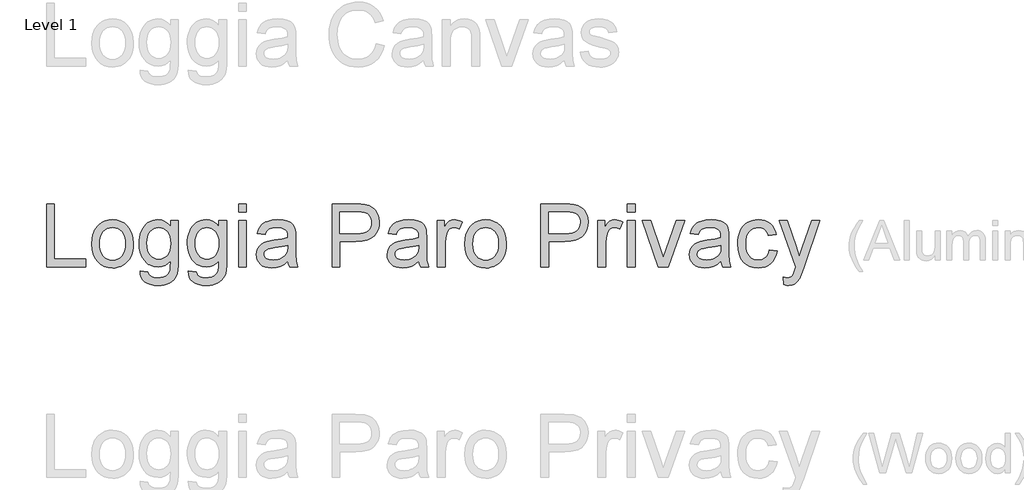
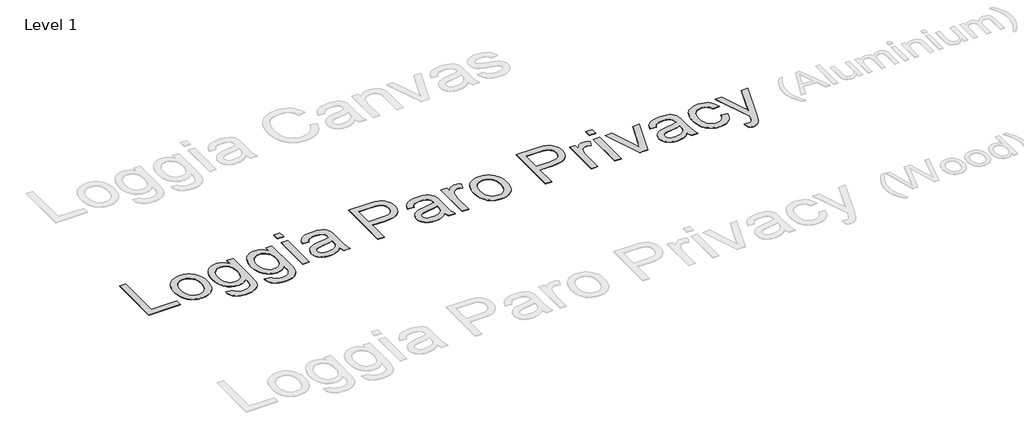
# One storey, part 10 of 80: 1 proxy.
"""IFC4 building model written with IfcOpenShell, lengths in millimetres."""

from ifc_helpers import new_model, si_unit, origin, origin_with_axes, place, context, project, spatial, polyline, outline, extrude, element, save

model = new_model("IFC4")

# Units and contexts
model_context = context("Model", 3, world=origin())
ifc_project = project(units=[si_unit("LENGTHUNIT", "METRE", prefix="MILLI")], contexts=[model_context])

# Site, building, storey
site = spatial("IfcSite", under=ifc_project)
building = spatial("IfcBuilding", under=site)
storey = spatial("IfcBuildingStorey", under=building, Name="Level 1", Elevation=0.0)

# Proxy
placement = place(None, origin())
element("IfcBuildingElementProxy", 1, Name="800mm Arial", ObjectType="800mm Arial", at=placement, inside=storey, context=model_context, shape_type="SweptSolid", body=[
    extrude(outline(polyline([(369965.6331768, -61669.7962224), (369965.6331768, -60870.407524), (370065.556764, -60870.407524), (370065.556764, -61569.8726351), (370465.2511132, -61569.8726351), (370465.2511132, -61669.7962224), (369965.6331768, -61669.7962224)])), origin_with_axes(), (0.0, 0.0, 1.0), 5.0),
    extrude(outline(polyline([(370540.1938037, -61376.2706847), (370545.5973864, -61300.2423986), (370552.3518647, -61266.1711632), (370561.8081343, -61234.728533), (370573.9661953, -61205.9145078), (370588.8260477, -61179.7290878), (370606.3876913, -61156.1722728), (370626.6511263, -61135.244063), (370664.7323567, -61106.8112161), (370706.7656431, -61086.5020397), (370752.7509853, -61074.3165339), (370802.6883836, -61070.2546986), (370857.8159047, -61075.2008674), (370907.6618201, -61090.0393737), (370952.22613, -61114.7702176), (370991.5088342, -61149.3933991), (371023.5704979, -61192.7379386), (371046.4716863, -61243.6328565), (371060.2123993, -61302.078153), (371064.792637, -61368.0738279), (371062.7678182, -61421.5607579), (371056.6933618, -61469.0220223), (371046.5692679, -61510.4576212), (371032.3955364, -61545.8675545), (371014.349034, -61576.4532961), (370992.6066275, -61603.4163198), (370967.1683168, -61626.7566255), (370938.0341019, -61646.4742132), (370906.3383693, -61662.1421634), (370873.2155054, -61673.3335564), (370838.6655101, -61680.0483922), (370802.6883836, -61682.2866708), (370746.7558141, -61677.3587986), (370696.4463859, -61662.5751819), (370651.760099, -61637.9358208), (370612.6969535, -61603.4407152), (370580.9768254, -61559.6753549), (370558.3195911, -61507.2252298), (370544.7252505, -61446.0903397), (370540.1938037, -61376.2706847)]), holes=[polyline([(370640.117391, -61376.0755214), (370643.0082467, -61424.5430964), (370651.6808139, -61466.5092954), (370666.1350926, -61501.9741184), (370686.3710828, -61530.9375654), (370710.9860485, -61553.4362296), (370738.5772539, -61569.506704), (370769.1446989, -61579.1489886), (370802.6883836, -61582.3630835), (370836.0613004, -61579.130692), (370866.5067684, -61569.4335177), (370894.0247876, -61553.2715606), (370918.6153579, -61530.6448205), (370938.8513481, -61501.3947275), (370953.3056267, -61465.3627113), (370961.9781939, -61422.5487719), (370964.8690497, -61372.9529093), (370961.9598974, -61326.022245), (370953.2324405, -61285.1538393), (370938.6866791, -61250.3476923), (370918.322613, -61221.603804), (370893.6405599, -61199.1051398), (370866.1408373, -61183.0346654), (370835.8234452, -61173.3923808), (370802.6883836, -61170.1782859), (370769.1446989, -61173.3801831), (370738.5772539, -61182.9858746), (370710.9860485, -61198.9953605), (370686.3710828, -61221.4086407), (370666.1350926, -61250.2867038), (370651.6808139, -61285.6905383), (370643.0082467, -61327.6201442), (370640.117391, -61376.0755214)])]), origin_with_axes(), (0.0, 0.0, 1.0), 5.0),
    extrude(outline(polyline([(371152.2257759, -61719.758016), (371252.1493631, -61732.2484644), (371256.3697686, -61749.0812953), (371263.1760871, -61763.4745855), (371272.5683189, -61775.4283349), (371284.5464637, -61784.9425437), (371303.9286146, -61794.6763111), (371326.5553547, -61801.6290021), (371381.5426022, -61807.1911549), (371412.7443278, -61805.6176511), (371440.1891607, -61800.8971399), (371463.877101, -61793.0296211), (371483.8081485, -61782.0150948), (371500.3970253, -61768.1585036), (371514.0584533, -61751.7647901), (371524.7924324, -61732.8339542), (371532.5989626, -61711.365996), (371538.014743, -61668.3812888), (371539.4296766, -61594.8535319), (371506.1787368, -61627.640959), (371469.0733227, -61651.0605497), (371428.1134342, -61665.1123042), (371383.2990715, -61669.7962224), (371328.5130861, -61664.3438489), (371280.2772675, -61647.9867285), (371258.6156707, -61635.7188881), (371238.5916157, -61620.7248611), (371203.4561307, -61582.5582467), (371175.5782793, -61536.7680677), (371155.6655283, -61486.6355062), (371143.7178776, -61432.1605623), (371139.7353274, -61373.3432358), (371141.522291, -61332.194283), (371146.8831817, -61292.6676247), (371155.8179995, -61254.763261), (371168.3267445, -61218.4811919), (371184.2203522, -61185.0289899), (371203.3097582, -61155.6142279), (371225.5949626, -61130.2369057), (371251.0759652, -61108.8970234), (371279.3441432, -61091.9910063), (371309.9908733, -61079.9152798), (371343.0161556, -61072.6698439), (371378.4199901, -61070.2546986), (371425.1493923, -61075.7192698), (371467.5608074, -61092.1129833), (371505.6542356, -61119.4358392), (371539.4296766, -61157.6878375), (371539.4296766, -61082.745147), (371639.3532639, -61082.745147), (371639.3532639, -61589.584124), (371637.6455854, -61653.0914674), (371632.5225499, -61706.6088916), (371623.9841575, -61750.1363966), (371612.030408, -61783.6739825), (371596.3746555, -61810.7223901), (371576.730254, -61834.7823603), (371553.0972034, -61855.8538931), (371525.4755038, -61873.9369886), (371494.1457023, -61888.4522558), (371459.3883461, -61898.8203038), (371421.2034352, -61905.0411326), (371379.5909696, -61907.1147422), (371330.6354865, -61904.1933922), (371286.6200733, -61895.4293422), (371247.5447301, -61880.8225922), (371213.4094567, -61860.3731423), (371185.8365479, -61834.0565969), (371166.4482982, -61801.8485607), (371155.2447075, -61763.7490338), (371152.2257759, -61719.758016)]), holes=[polyline([(371239.6589147, -61366.5125219), (371242.324113, -61415.91932), (371250.3197076, -61458.1660662), (371263.6456987, -61493.2527604), (371282.3020863, -61521.1794026), (371304.983716, -61542.4826918), (371330.3854336, -61557.699327), (371358.5072391, -61566.829308), (371389.3491324, -61569.8726351), (371419.8860832, -61566.8476046), (371447.8737139, -61557.7725132), (371473.3120246, -61542.6473608), (371496.2010153, -61521.4721475), (371515.1135546, -61493.8199536), (371528.6225113, -61459.2638595), (371536.7278853, -61417.8038652), (371539.4296766, -61369.4399707), (371536.6486002, -61323.0947962), (371528.305371, -61282.8118803), (371514.399989, -61248.591223), (371494.9324542, -61220.4328244), (371471.5494565, -61198.4464638), (371445.897686, -61182.7419205), (371417.9771426, -61173.3191946), (371387.7878264, -61170.1782859), (371358.1047148, -61173.2704037), (371330.7269693, -61182.5467573), (371305.6545897, -61198.0073465), (371282.887576, -61219.6521714), (371263.9750367, -61247.3836504), (371250.4660801, -61281.1042018), (371242.3607061, -61320.8138256), (371239.6589147, -61366.5125219)])]), origin_with_axes(), (0.0, 0.0, 1.0), 5.0),
    extrude(outline(polyline([(371764.257748, -61719.758016), (371864.1813353, -61732.2484644), (371868.4017407, -61749.0812953), (371875.2080593, -61763.4745855), (371884.600291, -61775.4283349), (371896.5784359, -61784.9425437), (371915.9605868, -61794.6763111), (371938.5873268, -61801.6290021), (371993.5745743, -61807.1911549), (372024.7763, -61805.6176511), (372052.2211329, -61800.8971399), (372075.9090731, -61793.0296211), (372095.8401207, -61782.0150948), (372112.4289975, -61768.1585036), (372126.0904254, -61751.7647901), (372136.8244046, -61732.8339542), (372144.6309348, -61711.365996), (372150.0467152, -61668.3812888), (372151.4616488, -61594.8535319), (372118.210709, -61627.640959), (372081.1052948, -61651.0605497), (372040.1454064, -61665.1123042), (371995.3310436, -61669.7962224), (371940.5450582, -61664.3438489), (371892.3092397, -61647.9867285), (371870.6476429, -61635.7188881), (371850.6235878, -61620.7248611), (371815.4881028, -61582.5582467), (371787.6102514, -61536.7680677), (371767.6975004, -61486.6355062), (371755.7498498, -61432.1605623), (371751.7672996, -61373.3432358), (371753.5542632, -61332.194283), (371758.9151539, -61292.6676247), (371767.8499717, -61254.763261), (371780.3587167, -61218.4811919), (371796.2523244, -61185.0289899), (371815.3417304, -61155.6142279), (371837.6269347, -61130.2369057), (371863.1079374, -61108.8970234), (371891.3761153, -61091.9910063), (371922.0228454, -61079.9152798), (371955.0481277, -61072.6698439), (371990.4519622, -61070.2546986), (372037.1813644, -61075.7192698), (372079.5927796, -61092.1129833), (372117.6862077, -61119.4358392), (372151.4616488, -61157.6878375), (372151.4616488, -61082.745147), (372251.3852361, -61082.745147), (372251.3852361, -61589.584124), (372249.6775576, -61653.0914674), (372244.5545221, -61706.6088916), (372236.0161296, -61750.1363966), (372224.0623802, -61783.6739825), (372208.4066277, -61810.7223901), (372188.7622262, -61834.7823603), (372165.1291756, -61855.8538931), (372137.5074759, -61873.9369886), (372106.1776744, -61888.4522558), (372071.4203182, -61898.8203038), (372033.2354073, -61905.0411326), (371991.6229418, -61907.1147422), (371942.6674587, -61904.1933922), (371898.6520455, -61895.4293422), (371859.5767022, -61880.8225922), (371825.4414289, -61860.3731423), (371797.8685201, -61834.0565969), (371778.4802703, -61801.8485607), (371767.2766796, -61763.7490338), (371764.257748, -61719.758016)]), holes=[polyline([(371851.6908869, -61366.5125219), (371854.3560851, -61415.91932), (371862.3516798, -61458.1660662), (371875.6776709, -61493.2527604), (371894.3340584, -61521.1794026), (371917.0156881, -61542.4826918), (371942.4174057, -61557.699327), (371970.5392112, -61566.829308), (372001.3811046, -61569.8726351), (372031.9180554, -61566.8476046), (372059.9056861, -61557.7725132), (372085.3439968, -61542.6473608), (372108.2329875, -61521.4721475), (372127.1455268, -61493.8199536), (372140.6544835, -61459.2638595), (372148.7598575, -61417.8038652), (372151.4616488, -61369.4399707), (372148.6805724, -61323.0947962), (372140.3373432, -61282.8118803), (372126.4319611, -61248.591223), (372106.9644263, -61220.4328244), (372083.5814287, -61198.4464638), (372057.9296581, -61182.7419205), (372030.0091148, -61173.3191946), (371999.8197985, -61170.1782859), (371970.136687, -61173.2704037), (371942.7589414, -61182.5467573), (371917.6865618, -61198.0073465), (371894.9195482, -61219.6521714), (371876.0070089, -61247.3836504), (371862.4980522, -61281.1042018), (371854.3926782, -61320.8138256), (371851.6908869, -61366.5125219)])]), origin_with_axes(), (0.0, 0.0, 1.0), 5.0),
    extrude(outline(polyline([(372401.270617, -61669.7962224), (372401.270617, -61082.745147), (372501.1942043, -61082.745147), (372501.1942043, -61669.7962224), (372401.270617, -61669.7962224)])), origin_with_axes(), (0.0, 0.0, 1.0), 5.0),
    extrude(outline(polyline([(372401.270617, -60970.3311113), (372401.270617, -60870.407524), (372501.1942043, -60870.407524), (372501.1942043, -60970.3311113), (372401.270617, -60970.3311113)])), origin_with_axes(), (0.0, 0.0, 1.0), 5.0),
    extrude(outline(polyline([(373025.7930376, -61594.8535319), (372978.051226, -61635.7890249), (372953.6497201, -61650.9507704), (372928.8944808, -61662.5751819), (372877.2006132, -61677.3587986), (372821.8474346, -61682.2866708), (372777.356311, -61679.3226288), (372738.3419563, -61670.4305029), (372704.8043704, -61655.6102932), (372676.7435535, -61634.8619995), (372654.586425, -61609.5029738), (372638.7599047, -61580.8505682), (372629.2639925, -61548.9047827), (372626.0986884, -61513.6656172), (372630.8801882, -61472.242216), (372645.2246876, -61434.6244984), (372667.3513218, -61402.4225611), (372695.4792261, -61377.246501), (372728.5350026, -61358.2180835), (372765.4452535, -61344.4590739), (372851.9025761, -61329.4315031), (372954.0705409, -61313.6232794), (373025.2075478, -61295.08277), (373025.7930376, -61272.8341588), (373024.0731614, -61248.6095196), (373018.9135328, -61228.2393547), (373010.3141518, -61211.7236641), (372998.2750184, -61199.0624479), (372977.4657362, -61186.425627), (372952.1189083, -61177.3993264), (372922.2345347, -61171.983546), (372887.8126153, -61170.1782859), (372828.2878221, -61174.9841811), (372805.2585578, -61180.9915501), (372786.7180485, -61189.4018667), (372771.4831168, -61200.8738068), (372758.3705855, -61216.0660466), (372747.3804546, -61234.9785859), (372738.5127241, -61257.6114248), (372638.5891368, -61245.1209764), (372655.9342713, -61190.4752646), (372667.8087356, -61167.5435819), (372681.8177981, -61147.5393482), (372698.5652451, -61130.060039), (372718.6548628, -61114.7031303), (372742.0866513, -61101.4686219), (372768.8606105, -61090.356514), (372830.2638501, -61075.2801525), (372900.6933902, -61070.2546986), (372968.2442724, -61074.6946627), (373021.7921908, -61088.0145549), (373062.1665895, -61108.0431841), (373090.1969122, -61132.609359), (373108.7862124, -61162.9816408), (373120.8375435, -61200.4285906), (373124.4968545, -61234.972487), (373125.7166249, -61287.8617295), (373125.7166249, -61412.1807239), (373126.9851861, -61520.4719358), (373130.7908696, -61585.7784405), (373138.3046549, -61628.6899615), (373150.6975217, -61669.7962224), (373050.7739344, -61669.7962224), (373034.7705474, -61635.0571627), (373025.7930376, -61594.8535319)]), holes=[polyline([(373025.7930376, -61395.0063573), (372958.6568774, -61411.6440249), (372864.5881878, -61425.6469886), (372812.7479478, -61433.3071464), (372778.6187733, -61441.8455389), (372756.2481851, -61452.9210537), (372739.6837037, -61468.1925785), (372729.4376327, -61486.4891338), (372726.0222757, -61506.63974), (372727.8824255, -61522.1674166), (372733.4628749, -61536.3533458), (372742.7636238, -61549.1975276), (372755.7846723, -61560.699962), (372772.4040434, -61570.1775777), (372792.4997599, -61576.9473031), (372843.1202296, -61582.3630835), (372896.7901251, -61576.3862088), (372921.2831138, -61568.9151153), (372944.2147964, -61558.4555846), (372982.6619579, -61532.0353587), (373009.3993241, -61500.589679), (373021.2554919, -61468.1925785), (373025.2075478, -61423.3050295), (373025.7930376, -61395.0063573)])]), origin_with_axes(), (0.0, 0.0, 1.0), 5.0),
    extrude(outline(polyline([(373587.8632161, -61669.7962224), (373587.8632161, -60870.407524), (373884.1210394, -60870.407524), (373953.1112505, -60872.3103658), (374003.5609523, -60878.018891), (374056.8161259, -60892.2414133), (374100.6546724, -60915.3926546), (374119.2622691, -60930.5787955), (374135.9548264, -60948.5216174), (374163.5948226, -60992.6773042), (374174.0116614, -61018.1156149), (374181.4522606, -61044.7614982), (374187.4047399, -61101.6759829), (374183.3855966, -61150.7473442), (374171.3281666, -61195.8910449), (374151.2324501, -61237.1070852), (374123.0984469, -61274.3954648), (374105.4041532, -61290.9538474), (374084.4744187, -61305.3044456), (374060.3092433, -61317.4472594), (374032.908627, -61327.382289), (373968.4010719, -61340.628995), (373890.9517534, -61345.0445637), (373687.7868034, -61345.0445637), (373687.7868034, -61669.7962224), (373587.8632161, -61669.7962224)]), holes=[polyline([(373687.7868034, -61245.1209764), (373896.806651, -61245.1209764), (373944.8656029, -61242.8278081), (373985.4107695, -61235.9483033), (374018.4421506, -61224.482462), (374043.9597464, -61208.4302842), (374063.0003616, -61188.2186894), (374076.600801, -61164.2745974), (374084.7610647, -61136.5980081), (374087.4811526, -61105.1889215), (374085.8771546, -61081.8669124), (374081.0651605, -61060.3013725), (374073.0451705, -61040.492302), (374061.8171844, -61022.4397008), (374047.9788897, -61006.7290586), (374032.127974, -60993.9458653), (374014.2644372, -60984.0901209), (373994.3882793, -60977.1618253), (373955.8435361, -60972.0387898), (373894.464692, -60970.3311113), (373687.7868034, -60970.3311113), (373687.7868034, -61245.1209764)])]), origin_with_axes(), (0.0, 0.0, 1.0), 5.0),
    extrude(outline(polyline([(374687.0226763, -61594.8535319), (374639.2808647, -61635.7890249), (374614.8793588, -61650.9507704), (374590.1241195, -61662.5751819), (374538.430252, -61677.3587986), (374483.0770734, -61682.2866708), (374438.5859498, -61679.3226288), (374399.571595, -61670.4305029), (374366.0340092, -61655.6102932), (374337.9731922, -61634.8619995), (374315.8160638, -61609.5029738), (374299.9895434, -61580.8505682), (374290.4936312, -61548.9047827), (374287.3283272, -61513.6656172), (374292.1098269, -61472.242216), (374306.4543263, -61434.6244984), (374328.5809605, -61402.4225611), (374356.7088648, -61377.246501), (374389.7646414, -61358.2180835), (374426.6748923, -61344.4590739), (374513.1322149, -61329.4315031), (374615.3001796, -61313.6232794), (374686.4371866, -61295.08277), (374687.0226763, -61272.8341588), (374685.3028001, -61248.6095196), (374680.1431715, -61228.2393547), (374671.5437906, -61211.7236641), (374659.5046572, -61199.0624479), (374638.695375, -61186.425627), (374613.348547, -61177.3993264), (374583.4641734, -61171.983546), (374549.042254, -61170.1782859), (374489.5174608, -61174.9841811), (374466.4881966, -61180.9915501), (374447.9476872, -61189.4018667), (374432.7127555, -61200.8738068), (374419.6002242, -61216.0660466), (374408.6100933, -61234.9785859), (374399.7423629, -61257.6114248), (374299.8187756, -61245.1209764), (374317.16391, -61190.4752646), (374329.0383744, -61167.5435819), (374343.0474369, -61147.5393482), (374359.7948838, -61130.060039), (374379.8845015, -61114.7031303), (374403.31629, -61101.4686219), (374430.0902492, -61090.356514), (374491.4934888, -61075.2801525), (374561.923029, -61070.2546986), (374629.4739111, -61074.6946627), (374683.0218296, -61088.0145549), (374723.3962283, -61108.0431841), (374751.426551, -61132.609359), (374770.0158511, -61162.9816408), (374782.0671822, -61200.4285906), (374785.7264933, -61234.972487), (374786.9462636, -61287.8617295), (374786.9462636, -61412.1807239), (374788.2148248, -61520.4719358), (374792.0205083, -61585.7784405), (374799.5342937, -61628.6899615), (374811.9271605, -61669.7962224), (374712.0035732, -61669.7962224), (374696.0001861, -61635.0571627), (374687.0226763, -61594.8535319)]), holes=[polyline([(374687.0226763, -61395.0063573), (374619.8865161, -61411.6440249), (374525.8178265, -61425.6469886), (374473.9775865, -61433.3071464), (374439.8484121, -61441.8455389), (374417.4778238, -61452.9210537), (374400.9133424, -61468.1925785), (374390.6672714, -61486.4891338), (374387.2519145, -61506.63974), (374389.1120642, -61522.1674166), (374394.6925136, -61536.3533458), (374403.9932626, -61549.1975276), (374417.0143111, -61560.699962), (374433.6336821, -61570.1775777), (374453.7293987, -61576.9473031), (374504.3498683, -61582.3630835), (374558.0197638, -61576.3862088), (374582.5127525, -61568.9151153), (374605.4444351, -61558.4555846), (374643.8915967, -61532.0353587), (374670.6289628, -61500.589679), (374682.4851306, -61468.1925785), (374686.4371866, -61423.3050295), (374687.0226763, -61395.0063573)])]), origin_with_axes(), (0.0, 0.0, 1.0), 5.0),
    extrude(outline(polyline([(374924.3411962, -61669.7962224), (374924.3411962, -61082.745147), (375011.774335, -61082.745147), (375011.774335, -61169.5927961), (375044.073854, -61119.240676), (375059.2721926, -61101.8223553), (375073.8362506, -61089.575861), (375103.6962288, -61075.0849892), (375136.2884926, -61070.2546986), (375161.0742262, -61072.1819358), (375186.055123, -61077.9636472), (375211.2311831, -61087.599833), (375236.6024064, -61101.0904931), (375203.2294896, -61190.6704278), (375168.1001034, -61175.3013214), (375132.9707173, -61170.1782859), (375103.1351345, -61175.1061581), (375076.4709545, -61189.8897748), (375054.9298101, -61213.4069472), (375040.4633337, -61244.5354866), (375028.314421, -61300.3521779), (375024.2647835, -61361.2431139), (375024.2647835, -61669.7962224), (374924.3411962, -61669.7962224)])), origin_with_axes(), (0.0, 0.0, 1.0), 5.0),
    extrude(outline(polyline([(375274.0737517, -61376.2706847), (375279.4773343, -61300.2423986), (375286.2318127, -61266.1711632), (375295.6880823, -61234.728533), (375307.8461433, -61205.9145078), (375322.7059956, -61179.7290878), (375340.2676393, -61156.1722728), (375360.5310743, -61135.244063), (375398.6123047, -61106.8112161), (375440.645591, -61086.5020397), (375486.6309333, -61074.3165339), (375536.5683316, -61070.2546986), (375591.6958527, -61075.2008674), (375641.5417681, -61090.0393737), (375686.106078, -61114.7702176), (375725.3887822, -61149.3933991), (375757.4504459, -61192.7379386), (375780.3516343, -61243.6328565), (375794.0923473, -61302.078153), (375798.672585, -61368.0738279), (375796.6477662, -61421.5607579), (375790.5733098, -61469.0220223), (375780.4492159, -61510.4576212), (375766.2754844, -61545.8675545), (375748.228982, -61576.4532961), (375726.4865755, -61603.4163198), (375701.0482648, -61626.7566255), (375671.9140499, -61646.4742132), (375640.2183173, -61662.1421634), (375607.0954534, -61673.3335564), (375572.5454581, -61680.0483922), (375536.5683316, -61682.2866708), (375480.6357621, -61677.3587986), (375430.3263339, -61662.5751819), (375385.640047, -61637.9358208), (375346.5769014, -61603.4407152), (375314.8567734, -61559.6753549), (375292.1995391, -61507.2252298), (375278.6051985, -61446.0903397), (375274.0737517, -61376.2706847)]), holes=[polyline([(375373.997339, -61376.0755214), (375376.8881947, -61424.5430964), (375385.5607619, -61466.5092954), (375400.0150406, -61501.9741184), (375420.2510307, -61530.9375654), (375444.8659965, -61553.4362296), (375472.4572018, -61569.506704), (375503.0246469, -61579.1489886), (375536.5683316, -61582.3630835), (375569.9412484, -61579.130692), (375600.3867164, -61569.4335177), (375627.9047356, -61553.2715606), (375652.4953059, -61530.6448205), (375672.7312961, -61501.3947275), (375687.1855747, -61465.3627113), (375695.8581419, -61422.5487719), (375698.7489977, -61372.9529093), (375695.8398454, -61326.022245), (375687.1123885, -61285.1538393), (375672.5666271, -61250.3476923), (375652.202561, -61221.603804), (375627.5205079, -61199.1051398), (375600.0207853, -61183.0346654), (375569.7033932, -61173.3923808), (375536.5683316, -61170.1782859), (375503.0246469, -61173.3801831), (375472.4572018, -61182.9858746), (375444.8659965, -61198.9953605), (375420.2510307, -61221.4086407), (375400.0150406, -61250.2867038), (375385.5607619, -61285.6905383), (375376.8881947, -61327.6201442), (375373.997339, -61376.0755214)])]), origin_with_axes(), (0.0, 0.0, 1.0), 5.0),
    extrude(outline(polyline([(376235.8382794, -61669.7962224), (376235.8382794, -60870.407524), (376532.0961026, -60870.407524), (376601.0863138, -60872.3103658), (376651.5360156, -60878.018891), (376704.7911892, -60892.2414133), (376748.6297356, -60915.3926546), (376767.2373324, -60930.5787955), (376783.9298897, -60948.5216174), (376811.5698858, -60992.6773042), (376821.9867247, -61018.1156149), (376829.4273238, -61044.7614982), (376835.3798031, -61101.6759829), (376831.3606598, -61150.7473442), (376819.3032299, -61195.8910449), (376799.2075133, -61237.1070852), (376771.0735101, -61274.3954648), (376753.3792165, -61290.9538474), (376732.4494819, -61305.3044456), (376708.2843065, -61317.4472594), (376680.8836903, -61327.382289), (376616.3761352, -61340.628995), (376538.9268166, -61345.0445637), (376335.7618667, -61345.0445637), (376335.7618667, -61669.7962224), (376235.8382794, -61669.7962224)]), holes=[polyline([(376335.7618667, -61245.1209764), (376544.7817143, -61245.1209764), (376592.8406662, -61242.8278081), (376633.3858327, -61235.9483033), (376666.4172139, -61224.482462), (376691.9348097, -61208.4302842), (376710.9754249, -61188.2186894), (376724.5758643, -61164.2745974), (376732.736128, -61136.5980081), (376735.4562158, -61105.1889215), (376733.8522178, -61081.8669124), (376729.0402238, -61060.3013725), (376721.0202337, -61040.492302), (376709.7922476, -61022.4397008), (376695.953953, -61006.7290586), (376680.1030372, -60993.9458653), (376662.2395004, -60984.0901209), (376642.3633425, -60977.1618253), (376603.8185994, -60972.0387898), (376542.4397552, -60970.3311113), (376335.7618667, -60970.3311113), (376335.7618667, -61245.1209764)])]), origin_with_axes(), (0.0, 0.0, 1.0), 5.0),
    extrude(outline(polyline([(376960.2842872, -61669.7962224), (376960.2842872, -61082.745147), (377047.7174261, -61082.745147), (377047.7174261, -61169.5927961), (377080.0169451, -61119.240676), (377095.2152837, -61101.8223553), (377109.7793417, -61089.575861), (377139.6393199, -61075.0849892), (377172.2315837, -61070.2546986), (377197.0173173, -61072.1819358), (377221.9982141, -61077.9636472), (377247.1742742, -61087.599833), (377272.5454975, -61101.0904931), (377239.1725807, -61190.6704278), (377204.0431945, -61175.3013214), (377168.9138084, -61170.1782859), (377139.0782255, -61175.1061581), (377112.4140456, -61189.8897748), (377090.8729012, -61213.4069472), (377076.4064248, -61244.5354866), (377064.2575121, -61300.3521779), (377060.2078745, -61361.2431139), (377060.2078745, -61669.7962224), (376960.2842872, -61669.7962224)])), origin_with_axes(), (0.0, 0.0, 1.0), 5.0),
    extrude(outline(polyline([(377334.9977396, -60970.3311113), (377334.9977396, -60870.407524), (377434.9213269, -60870.407524), (377434.9213269, -60970.3311113), (377334.9977396, -60970.3311113)])), origin_with_axes(), (0.0, 0.0, 1.0), 5.0),
    extrude(outline(polyline([(377334.9977396, -61669.7962224), (377334.9977396, -61082.745147), (377434.9213269, -61082.745147), (377434.9213269, -61669.7962224), (377334.9977396, -61669.7962224)])), origin_with_axes(), (0.0, 0.0, 1.0), 5.0),
    extrude(outline(polyline([(377728.8371911, -61669.7962224), (377522.3544658, -61082.745147), (377628.1329508, -61082.745147), (377753.2325981, -61434.4293351), (377790.8991066, -61552.6982685), (377827.7849621, -61441.0648858), (377953.6652625, -61082.745147), (378059.4437475, -61082.745147), (377855.4981445, -61669.7962224), (377728.8371911, -61669.7962224)])), origin_with_axes(), (0.0, 0.0, 1.0), 5.0),
    extrude(outline(polyline([(378521.5903387, -61594.8535319), (378473.8485271, -61635.7890249), (378449.4470212, -61650.9507704), (378424.6917819, -61662.5751819), (378372.9979143, -61677.3587986), (378317.6447357, -61682.2866708), (378273.1536121, -61679.3226288), (378234.1392574, -61670.4305029), (378200.6016715, -61655.6102932), (378172.5408546, -61634.8619995), (378150.3837261, -61609.5029738), (378134.5572058, -61580.8505682), (378125.0612936, -61548.9047827), (378121.8959895, -61513.6656172), (378126.6774893, -61472.242216), (378141.0219887, -61434.6244984), (378163.1486229, -61402.4225611), (378191.2765272, -61377.246501), (378224.3323037, -61358.2180835), (378261.2425546, -61344.4590739), (378347.6998772, -61329.4315031), (378449.867842, -61313.6232794), (378521.0048489, -61295.08277), (378521.5903387, -61272.8341588), (378519.8704625, -61248.6095196), (378514.7108339, -61228.2393547), (378506.1114529, -61211.7236641), (378494.0723195, -61199.0624479), (378473.2630373, -61186.425627), (378447.9162094, -61177.3993264), (378418.0318358, -61171.983546), (378383.6099164, -61170.1782859), (378324.0851232, -61174.9841811), (378301.0558589, -61180.9915501), (378282.5153496, -61189.4018667), (378267.2804179, -61200.8738068), (378254.1678866, -61216.0660466), (378243.1777557, -61234.9785859), (378234.3100252, -61257.6114248), (378134.3864379, -61245.1209764), (378151.7315724, -61190.4752646), (378163.6060367, -61167.5435819), (378177.6150992, -61147.5393482), (378194.3625462, -61130.060039), (378214.4521639, -61114.7031303), (378237.8839524, -61101.4686219), (378264.6579116, -61090.356514), (378326.0611512, -61075.2801525), (378396.4906913, -61070.2546986), (378464.0415735, -61074.6946627), (378517.5894919, -61088.0145549), (378557.9638906, -61108.0431841), (378585.9942133, -61132.609359), (378604.5835135, -61162.9816408), (378616.6348446, -61200.4285906), (378620.2941556, -61234.972487), (378621.513926, -61287.8617295), (378621.513926, -61412.1807239), (378622.7824872, -61520.4719358), (378626.5881707, -61585.7784405), (378634.101956, -61628.6899615), (378646.4948228, -61669.7962224), (378546.5712355, -61669.7962224), (378530.5678485, -61635.0571627), (378521.5903387, -61594.8535319)]), holes=[polyline([(378521.5903387, -61395.0063573), (378454.4541785, -61411.6440249), (378360.3854889, -61425.6469886), (378308.5452489, -61433.3071464), (378274.4160744, -61441.8455389), (378252.0454862, -61452.9210537), (378235.4810048, -61468.1925785), (378225.2349338, -61486.4891338), (378221.8195768, -61506.63974), (378223.6797266, -61522.1674166), (378229.260176, -61536.3533458), (378238.5609249, -61549.1975276), (378251.5819734, -61560.699962), (378268.2013445, -61570.1775777), (378288.297061, -61576.9473031), (378338.9175307, -61582.3630835), (378392.5874262, -61576.3862088), (378417.0804149, -61568.9151153), (378440.0120975, -61558.4555846), (378478.459259, -61532.0353587), (378505.1966252, -61500.589679), (378517.052793, -61468.1925785), (378521.0048489, -61423.3050295), (378521.5903387, -61395.0063573)])]), origin_with_axes(), (0.0, 0.0, 1.0), 5.0),
    extrude(outline(polyline([(379133.6223109, -61457.4585994), (379233.5458982, -61469.9490478), (379222.6777443, -61517.0992708), (379205.6863433, -61558.8215157), (379182.5716951, -61595.1157825), (379153.3337998, -61625.9820713), (379119.2046253, -61650.6153336), (379081.4161398, -61668.2105209), (379039.9683432, -61678.7676333), (378994.8612355, -61682.2866708), (378938.8188867, -61677.3770951), (378888.570447, -61662.6483681), (378844.1159165, -61638.1004897), (378805.4552952, -61603.7334601), (378774.1620868, -61560.1937573), (378751.8097951, -61508.1278598), (378738.39842, -61447.5357675), (378733.9279617, -61378.4174805), (378735.8369023, -61332.4748302), (378741.5637241, -61289.4962218), (378751.1084271, -61249.4816554), (378764.4710113, -61212.4311309), (378781.7429595, -61179.0887083), (378803.0157545, -61150.1984475), (378828.2893962, -61125.7603485), (378857.5638846, -61105.7744113), (378889.515769, -61090.234537), (378922.8215985, -61079.1346268), (378957.4813731, -61072.4746806), (378993.4950927, -61070.2546986), (379037.8276462, -61073.3041245), (379077.9275966, -61082.4524021), (379113.7949438, -61097.6995315), (379145.4296879, -61119.0455127), (379172.2951299, -61146.0024375), (379193.8545709, -61178.0823978), (379210.1080108, -61215.2853935), (379221.0554497, -61257.6114248), (379121.1318625, -61270.1018732), (379113.331431, -61246.7615675), (379103.006075, -61226.5072808), (379090.1557943, -61209.3390131), (379074.7805891, -61195.2567644), (379057.2707856, -61184.28493), (379038.0167106, -61176.4479055), (379017.018364, -61171.7456908), (378994.2757458, -61170.1782859), (378960.323438, -61173.2643049), (378929.7011033, -61182.5223619), (378902.4087417, -61197.9524568), (378878.4463531, -61219.5545898), (378858.9361263, -61247.8288666), (378845.00025, -61283.275393), (378836.6387242, -61325.8941691), (378833.851549, -61375.6851949), (378836.5777357, -61426.2263795), (378844.7562959, -61469.3391626), (378858.3872296, -61505.0235443), (378877.4705368, -61533.2795245), (378900.9572149, -61554.7535815), (378927.7982616, -61570.0921937), (378957.9936766, -61579.295361), (378991.5434602, -61582.3630835), (379018.5796701, -61580.448044), (379043.2861185, -61574.7029257), (379065.6628057, -61565.1277284), (379085.7097314, -61551.7224522), (379102.8658014, -61534.3407247), (379116.5699213, -61512.8361734), (379126.8220911, -61487.2087983), (379133.6223109, -61457.4585994)])), origin_with_axes(), (0.0, 0.0, 1.0), 5.0),
    extrude(outline(polyline([(379320.979037, -61894.6242938), (379308.4885886, -61798.4088084), (379335.7138629, -61804.9955683), (379359.2310353, -61807.1911549), (379385.9196106, -61804.4344739), (379406.6557066, -61796.1644309), (379422.8054661, -61782.9665157), (379435.7350318, -61765.426218), (379463.0578877, -61691.8496703), (379470.864418, -61667.6494265), (379258.526795, -61082.745147), (379363.9149535, -61082.745147), (379476.5241524, -61408.6677853), (379515.751967, -61539.0368406), (379554.9797815, -61423.8905193), (379670.7115926, -61082.745147), (379775.319098, -61082.745147), (379570.9831685, -61683.8479768), (379540.6352822, -61763.7673303), (379517.8987628, -61814.2170321), (379490.7222793, -61855.8355966), (379459.9352756, -61884.6709677), (379442.846293, -61894.490119), (379424.1716089, -61901.5037986), (379382.0651363, -61907.1147422), (379353.1321835, -61903.9921301), (379320.979037, -61894.6242938)])), origin_with_axes(), (0.0, 0.0, 1.0), 5.0),
])

save(model, "model.ifc")
